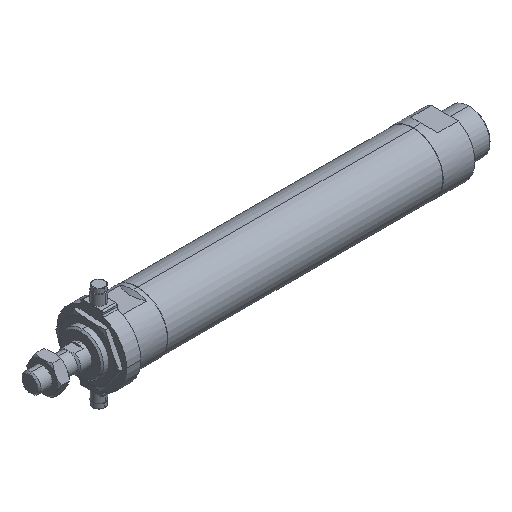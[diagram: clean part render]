
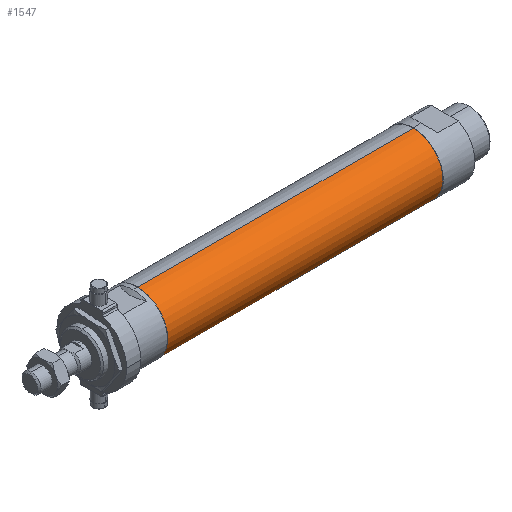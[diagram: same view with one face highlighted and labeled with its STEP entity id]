
A CAD part, isometric view. The second image highlights one B-rep face of the part: STEP entity #1547.
In plain terms, the highlighted cylindrical face has radius 18.8 mm (diameter 37.6 mm), a partial arc.
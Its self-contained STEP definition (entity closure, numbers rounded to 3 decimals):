
#62 = AXIS2_PLACEMENT_3D ( 'NONE', #2108, #671, #3843 ) ;
#78 = VECTOR ( 'NONE', #1896, 1000. ) ;
#180 = DIRECTION ( 'NONE',  ( -1., 0., 0. ) ) ;
#339 = ORIENTED_EDGE ( 'NONE', *, *, #4523, .F. ) ;
#413 = CARTESIAN_POINT ( 'NONE',  ( 242., 0., 0. ) ) ;
#452 = CARTESIAN_POINT ( 'NONE',  ( 242., 0., -18.8 ) ) ;
#485 = LINE ( 'NONE', #1486, #929 ) ;
#671 = DIRECTION ( 'NONE',  ( -1., 0., 0. ) ) ;
#738 = FACE_OUTER_BOUND ( 'NONE', #4121, .T. ) ;
#929 = VECTOR ( 'NONE', #180, 1000. ) ;
#993 = VERTEX_POINT ( 'NONE', #4387 ) ;
#1001 = DIRECTION ( 'NONE',  ( 0., 0., 1. ) ) ;
#1199 = VERTEX_POINT ( 'NONE', #2060 ) ;
#1467 = EDGE_CURVE ( 'NONE', #2772, #4425, #3629, .T. ) ;
#1486 = CARTESIAN_POINT ( 'NONE',  ( -1.784, 0., -18.8 ) ) ;
#1501 = CARTESIAN_POINT ( 'NONE',  ( -1.784, 0., 0. ) ) ;
#1545 = ORIENTED_EDGE ( 'NONE', *, *, #3936, .F. ) ;
#1547 = ADVANCED_FACE ( 'NONE', ( #738 ), #1737, .T. ) ;
#1552 = ORIENTED_EDGE ( 'NONE', *, *, #2768, .T. ) ;
#1658 = DIRECTION ( 'NONE',  ( -1., 0., 0. ) ) ;
#1737 = CYLINDRICAL_SURFACE ( 'NONE', #3483, 18.8 ) ;
#1755 = AXIS2_PLACEMENT_3D ( 'NONE', #413, #3047, #1001 ) ;
#1896 = DIRECTION ( 'NONE',  ( -1., 0., 0. ) ) ;
#2043 = LINE ( 'NONE', #2554, #78 ) ;
#2060 = CARTESIAN_POINT ( 'NONE',  ( 68., 0., -18.8 ) ) ;
#2101 = CIRCLE ( 'NONE', #62, 18.8 ) ;
#2108 = CARTESIAN_POINT ( 'NONE',  ( 68., 0., 0. ) ) ;
#2317 = DIRECTION ( 'NONE',  ( 0., 0., 1. ) ) ;
#2554 = CARTESIAN_POINT ( 'NONE',  ( -1.784, 0., 18.8 ) ) ;
#2768 = EDGE_CURVE ( 'NONE', #4425, #993, #2043, .T. ) ;
#2772 = VERTEX_POINT ( 'NONE', #452 ) ;
#2815 = ORIENTED_EDGE ( 'NONE', *, *, #1467, .T. ) ;
#3047 = DIRECTION ( 'NONE',  ( -1., 0., 0. ) ) ;
#3483 = AXIS2_PLACEMENT_3D ( 'NONE', #1501, #1658, #2317 ) ;
#3629 = CIRCLE ( 'NONE', #1755, 18.8 ) ;
#3679 = CARTESIAN_POINT ( 'NONE',  ( 242., 0., 18.8 ) ) ;
#3843 = DIRECTION ( 'NONE',  ( 0., 0., 1. ) ) ;
#3936 = EDGE_CURVE ( 'NONE', #2772, #1199, #485, .T. ) ;
#4121 = EDGE_LOOP ( 'NONE', ( #1545, #2815, #1552, #339 ) ) ;
#4387 = CARTESIAN_POINT ( 'NONE',  ( 68., 0., 18.8 ) ) ;
#4425 = VERTEX_POINT ( 'NONE', #3679 ) ;
#4523 = EDGE_CURVE ( 'NONE', #1199, #993, #2101, .T. ) ;
